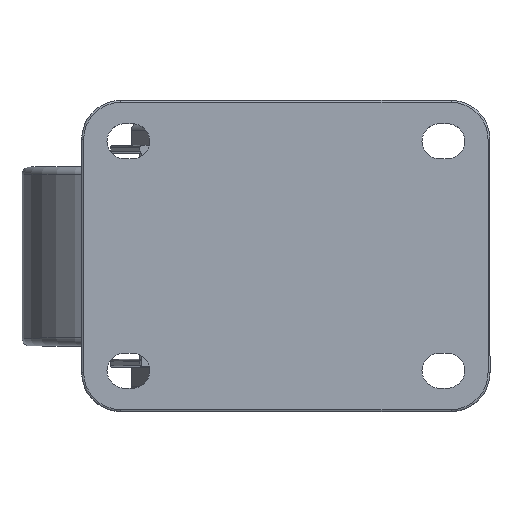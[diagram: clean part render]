
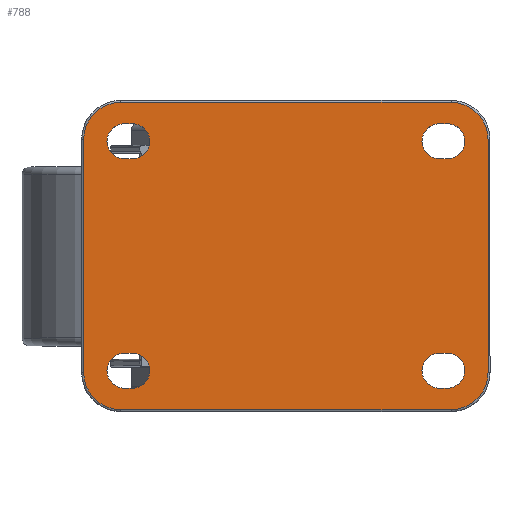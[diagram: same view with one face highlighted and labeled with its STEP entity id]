
A CAD part, top view. The second image highlights one B-rep face of the part: STEP entity #788.
In plain terms, the highlighted planar face has unit normal (0, 0, 1).
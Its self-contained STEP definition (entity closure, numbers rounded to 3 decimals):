
#567=PLANE('',#7981);
#788=ADVANCED_FACE('',(#1604,#1605,#1606,#1607,#1608),#567,.F.);
#1604=FACE_BOUND('',#1716,.T.);
#1605=FACE_BOUND('',#1717,.T.);
#1606=FACE_BOUND('',#1718,.T.);
#1607=FACE_BOUND('',#1719,.T.);
#1608=FACE_BOUND('',#1720,.T.);
#1716=EDGE_LOOP('',(#3864,#3865,#3866,#3867,#3868,#3869,#3870,#3871));
#1717=EDGE_LOOP('',(#3872,#3873,#3874,#3875));
#1718=EDGE_LOOP('',(#3876,#3877,#3878,#3879));
#1719=EDGE_LOOP('',(#3880,#3881,#3882,#3883));
#1720=EDGE_LOOP('',(#3884,#3885,#3886,#3887));
#2256=CIRCLE('',#7969,9.5);
#2257=CIRCLE('',#7970,9.5);
#2258=CIRCLE('',#7971,9.5);
#2259=CIRCLE('',#7972,9.5);
#2260=CIRCLE('',#7973,4.5);
#2261=CIRCLE('',#7974,4.5);
#2262=CIRCLE('',#7975,4.5);
#2263=CIRCLE('',#7976,4.5);
#2264=CIRCLE('',#7977,4.5);
#2265=CIRCLE('',#7978,4.5);
#2266=CIRCLE('',#7979,4.5);
#2267=CIRCLE('',#7980,4.5);
#2740=LINE('',#12502,#3206);
#2741=LINE('',#12507,#3207);
#2742=LINE('',#12511,#3208);
#2743=LINE('',#12515,#3209);
#2744=LINE('',#12518,#3210);
#2745=LINE('',#12523,#3211);
#2746=LINE('',#12526,#3212);
#2747=LINE('',#12531,#3213);
#2748=LINE('',#12534,#3214);
#2749=LINE('',#12539,#3215);
#2750=LINE('',#12542,#3216);
#2751=LINE('',#12547,#3217);
#3206=VECTOR('',#9210,1.);
#3207=VECTOR('',#9213,1.);
#3208=VECTOR('',#9216,1.);
#3209=VECTOR('',#9219,1.);
#3210=VECTOR('',#9222,1.);
#3211=VECTOR('',#9225,1.);
#3212=VECTOR('',#9228,1.);
#3213=VECTOR('',#9231,1.);
#3214=VECTOR('',#9234,1.);
#3215=VECTOR('',#9237,1.);
#3216=VECTOR('',#9240,1.);
#3217=VECTOR('',#9243,1.);
#3864=ORIENTED_EDGE('',*,*,#6876,.T.);
#3865=ORIENTED_EDGE('',*,*,#6877,.T.);
#3866=ORIENTED_EDGE('',*,*,#6878,.T.);
#3867=ORIENTED_EDGE('',*,*,#6879,.T.);
#3868=ORIENTED_EDGE('',*,*,#6880,.T.);
#3869=ORIENTED_EDGE('',*,*,#6881,.T.);
#3870=ORIENTED_EDGE('',*,*,#6882,.T.);
#3871=ORIENTED_EDGE('',*,*,#6883,.T.);
#3872=ORIENTED_EDGE('',*,*,#6884,.F.);
#3873=ORIENTED_EDGE('',*,*,#6885,.F.);
#3874=ORIENTED_EDGE('',*,*,#6886,.F.);
#3875=ORIENTED_EDGE('',*,*,#6887,.F.);
#3876=ORIENTED_EDGE('',*,*,#6888,.F.);
#3877=ORIENTED_EDGE('',*,*,#6889,.F.);
#3878=ORIENTED_EDGE('',*,*,#6890,.F.);
#3879=ORIENTED_EDGE('',*,*,#6891,.F.);
#3880=ORIENTED_EDGE('',*,*,#6892,.F.);
#3881=ORIENTED_EDGE('',*,*,#6893,.F.);
#3882=ORIENTED_EDGE('',*,*,#6894,.F.);
#3883=ORIENTED_EDGE('',*,*,#6895,.F.);
#3884=ORIENTED_EDGE('',*,*,#6896,.F.);
#3885=ORIENTED_EDGE('',*,*,#6897,.F.);
#3886=ORIENTED_EDGE('',*,*,#6898,.F.);
#3887=ORIENTED_EDGE('',*,*,#6899,.F.);
#6132=VERTEX_POINT('',#12503);
#6133=VERTEX_POINT('',#12504);
#6134=VERTEX_POINT('',#12506);
#6135=VERTEX_POINT('',#12508);
#6136=VERTEX_POINT('',#12510);
#6137=VERTEX_POINT('',#12512);
#6138=VERTEX_POINT('',#12514);
#6139=VERTEX_POINT('',#12516);
#6140=VERTEX_POINT('',#12519);
#6141=VERTEX_POINT('',#12520);
#6142=VERTEX_POINT('',#12522);
#6143=VERTEX_POINT('',#12524);
#6144=VERTEX_POINT('',#12527);
#6145=VERTEX_POINT('',#12528);
#6146=VERTEX_POINT('',#12530);
#6147=VERTEX_POINT('',#12532);
#6148=VERTEX_POINT('',#12535);
#6149=VERTEX_POINT('',#12536);
#6150=VERTEX_POINT('',#12538);
#6151=VERTEX_POINT('',#12540);
#6152=VERTEX_POINT('',#12543);
#6153=VERTEX_POINT('',#12544);
#6154=VERTEX_POINT('',#12546);
#6155=VERTEX_POINT('',#12548);
#6876=EDGE_CURVE('',#6132,#6133,#2740,.T.);
#6877=EDGE_CURVE('',#6133,#6134,#2256,.T.);
#6878=EDGE_CURVE('',#6134,#6135,#2741,.T.);
#6879=EDGE_CURVE('',#6135,#6136,#2257,.T.);
#6880=EDGE_CURVE('',#6136,#6137,#2742,.T.);
#6881=EDGE_CURVE('',#6137,#6138,#2258,.T.);
#6882=EDGE_CURVE('',#6138,#6139,#2743,.T.);
#6883=EDGE_CURVE('',#6139,#6132,#2259,.T.);
#6884=EDGE_CURVE('',#6140,#6141,#2744,.T.);
#6885=EDGE_CURVE('',#6142,#6140,#2260,.T.);
#6886=EDGE_CURVE('',#6143,#6142,#2745,.T.);
#6887=EDGE_CURVE('',#6141,#6143,#2261,.T.);
#6888=EDGE_CURVE('',#6144,#6145,#2746,.T.);
#6889=EDGE_CURVE('',#6146,#6144,#2262,.T.);
#6890=EDGE_CURVE('',#6147,#6146,#2747,.T.);
#6891=EDGE_CURVE('',#6145,#6147,#2263,.T.);
#6892=EDGE_CURVE('',#6148,#6149,#2748,.T.);
#6893=EDGE_CURVE('',#6150,#6148,#2264,.T.);
#6894=EDGE_CURVE('',#6151,#6150,#2749,.T.);
#6895=EDGE_CURVE('',#6149,#6151,#2265,.T.);
#6896=EDGE_CURVE('',#6152,#6153,#2750,.T.);
#6897=EDGE_CURVE('',#6154,#6152,#2266,.T.);
#6898=EDGE_CURVE('',#6155,#6154,#2751,.T.);
#6899=EDGE_CURVE('',#6153,#6155,#2267,.T.);
#7969=AXIS2_PLACEMENT_3D('',#12505,#9211,#9212);
#7970=AXIS2_PLACEMENT_3D('',#12509,#9214,#9215);
#7971=AXIS2_PLACEMENT_3D('',#12513,#9217,#9218);
#7972=AXIS2_PLACEMENT_3D('',#12517,#9220,#9221);
#7973=AXIS2_PLACEMENT_3D('',#12521,#9223,#9224);
#7974=AXIS2_PLACEMENT_3D('',#12525,#9226,#9227);
#7975=AXIS2_PLACEMENT_3D('',#12529,#9229,#9230);
#7976=AXIS2_PLACEMENT_3D('',#12533,#9232,#9233);
#7977=AXIS2_PLACEMENT_3D('',#12537,#9235,#9236);
#7978=AXIS2_PLACEMENT_3D('',#12541,#9238,#9239);
#7979=AXIS2_PLACEMENT_3D('',#12545,#9241,#9242);
#7980=AXIS2_PLACEMENT_3D('',#12549,#9244,#9245);
#7981=AXIS2_PLACEMENT_3D('',#12550,#9246,#9247);
#9210=DIRECTION('',(0.,1.,0.));
#9211=DIRECTION('',(0.,0.,1.));
#9212=DIRECTION('',(-1.,0.,0.));
#9213=DIRECTION('',(-1.,0.,0.));
#9214=DIRECTION('',(0.,0.,1.));
#9215=DIRECTION('',(-1.,0.,0.));
#9216=DIRECTION('',(0.,-1.,0.));
#9217=DIRECTION('',(0.,0.,1.));
#9218=DIRECTION('',(-1.,0.,0.));
#9219=DIRECTION('',(1.,0.,0.));
#9220=DIRECTION('',(0.,0.,1.));
#9221=DIRECTION('',(-1.,0.,0.));
#9222=DIRECTION('',(1.,0.,0.));
#9223=DIRECTION('',(0.,0.,1.));
#9224=DIRECTION('',(0.,1.,0.));
#9225=DIRECTION('',(-1.,0.,0.));
#9226=DIRECTION('',(0.,0.,1.));
#9227=DIRECTION('',(0.,1.,0.));
#9228=DIRECTION('',(-1.,0.,0.));
#9229=DIRECTION('',(0.,0.,1.));
#9230=DIRECTION('',(0.,1.,0.));
#9231=DIRECTION('',(1.,0.,0.));
#9232=DIRECTION('',(0.,0.,1.));
#9233=DIRECTION('',(0.,1.,0.));
#9234=DIRECTION('',(-1.,0.,0.));
#9235=DIRECTION('',(0.,0.,1.));
#9236=DIRECTION('',(0.,-1.,0.));
#9237=DIRECTION('',(1.,0.,0.));
#9238=DIRECTION('',(0.,0.,1.));
#9239=DIRECTION('',(0.,-1.,0.));
#9240=DIRECTION('',(1.,0.,0.));
#9241=DIRECTION('',(0.,0.,1.));
#9242=DIRECTION('',(0.,-1.,0.));
#9243=DIRECTION('',(-1.,0.,0.));
#9244=DIRECTION('',(0.,0.,1.));
#9245=DIRECTION('',(0.,-1.,0.));
#9246=DIRECTION('',(0.,0.,-1.));
#9247=DIRECTION('',(0.,1.,0.));
#12502=CARTESIAN_POINT('',(52.,40.,0.));
#12503=CARTESIAN_POINT('',(52.,-30.,0.));
#12504=CARTESIAN_POINT('',(52.,30.,0.));
#12505=CARTESIAN_POINT('',(42.5,30.,0.));
#12506=CARTESIAN_POINT('',(42.5,39.5,0.));
#12507=CARTESIAN_POINT('',(-47.5,39.5,0.));
#12508=CARTESIAN_POINT('',(-42.5,39.5,0.));
#12509=CARTESIAN_POINT('',(-42.5,30.,0.));
#12510=CARTESIAN_POINT('',(-52.,30.,0.));
#12511=CARTESIAN_POINT('',(-52.,-35.,0.));
#12512=CARTESIAN_POINT('',(-52.,-30.,0.));
#12513=CARTESIAN_POINT('',(-42.5,-30.,0.));
#12514=CARTESIAN_POINT('',(-42.5,-39.5,0.));
#12515=CARTESIAN_POINT('',(-2554.797,-39.5,0.));
#12516=CARTESIAN_POINT('',(42.5,-39.5,0.));
#12517=CARTESIAN_POINT('',(42.5,-30.,0.));
#12518=CARTESIAN_POINT('',(-41.5,-34.,0.));
#12519=CARTESIAN_POINT('',(-41.5,-34.,0.));
#12520=CARTESIAN_POINT('',(-39.5,-34.,0.));
#12521=CARTESIAN_POINT('',(-41.5,-29.5,0.));
#12522=CARTESIAN_POINT('',(-41.5,-25.,0.));
#12523=CARTESIAN_POINT('',(-41.5,-25.,0.));
#12524=CARTESIAN_POINT('',(-39.5,-25.,0.));
#12525=CARTESIAN_POINT('',(-39.5,-29.5,0.));
#12526=CARTESIAN_POINT('',(41.5,34.,0.));
#12527=CARTESIAN_POINT('',(41.5,34.,0.));
#12528=CARTESIAN_POINT('',(39.5,34.,0.));
#12529=CARTESIAN_POINT('',(41.5,29.5,0.));
#12530=CARTESIAN_POINT('',(41.5,25.,0.));
#12531=CARTESIAN_POINT('',(41.5,25.,0.));
#12532=CARTESIAN_POINT('',(39.5,25.,0.));
#12533=CARTESIAN_POINT('',(39.5,29.5,0.));
#12534=CARTESIAN_POINT('',(41.5,-25.,0.));
#12535=CARTESIAN_POINT('',(41.5,-25.,0.));
#12536=CARTESIAN_POINT('',(39.5,-25.,0.));
#12537=CARTESIAN_POINT('',(41.5,-29.5,0.));
#12538=CARTESIAN_POINT('',(41.5,-34.,0.));
#12539=CARTESIAN_POINT('',(41.5,-34.,0.));
#12540=CARTESIAN_POINT('',(39.5,-34.,0.));
#12541=CARTESIAN_POINT('',(39.5,-29.5,0.));
#12542=CARTESIAN_POINT('',(-41.5,25.,0.));
#12543=CARTESIAN_POINT('',(-41.5,25.,0.));
#12544=CARTESIAN_POINT('',(-39.5,25.,0.));
#12545=CARTESIAN_POINT('',(-41.5,29.5,0.));
#12546=CARTESIAN_POINT('',(-41.5,34.,0.));
#12547=CARTESIAN_POINT('',(-41.5,34.,0.));
#12548=CARTESIAN_POINT('',(-39.5,34.,0.));
#12549=CARTESIAN_POINT('',(-39.5,29.5,0.));
#12550=CARTESIAN_POINT('',(-2554.797,40.,0.));
